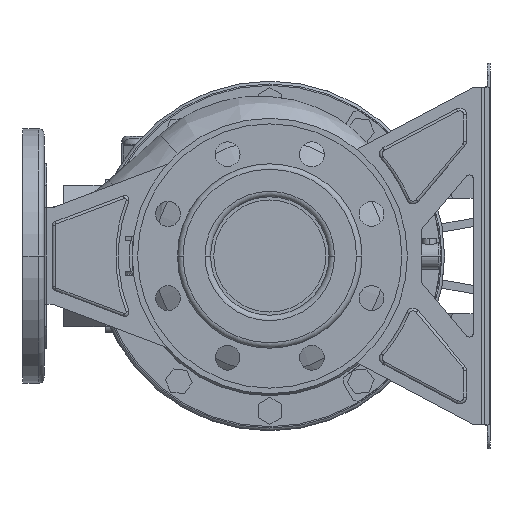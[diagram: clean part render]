
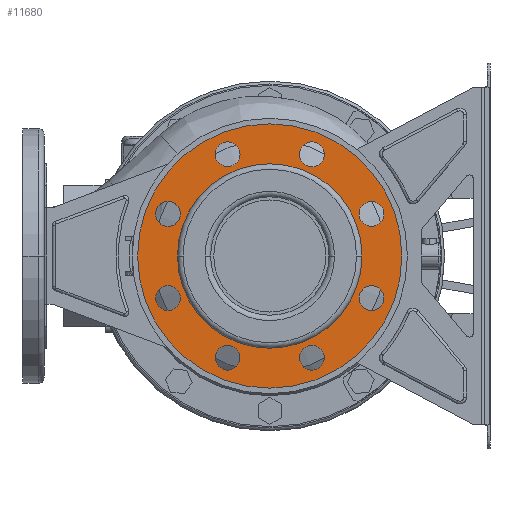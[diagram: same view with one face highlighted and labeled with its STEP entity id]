
A CAD part, left-side view. The second image highlights one B-rep face of the part: STEP entity #11680.
In plain terms, the highlighted planar face has unit normal (-1, 0, 0).
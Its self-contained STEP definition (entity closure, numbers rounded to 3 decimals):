
#10957=CARTESIAN_POINT('',(14.,0.,0.));
#10958=DIRECTION('',(-1.,0.,0.));
#10959=DIRECTION('',(0.,1.,0.));
#10960=AXIS2_PLACEMENT_3D('',#10957,#10958,#10959);
#10962=CARTESIAN_POINT('',(14.,0.,0.));
#10963=DIRECTION('',(1.,0.,0.));
#10964=DIRECTION('',(0.,1.,0.));
#10965=AXIS2_PLACEMENT_3D('',#10962,#10963,#10964);
#10967=CARTESIAN_POINT('',(14.,-73.91,30.615));
#10968=DIRECTION('',(1.,0.,0.));
#10969=DIRECTION('',(0.,1.,0.));
#10970=AXIS2_PLACEMENT_3D('',#10967,#10968,#10969);
#10972=CARTESIAN_POINT('',(14.,-73.91,30.615));
#10973=DIRECTION('',(1.,0.,0.));
#10974=DIRECTION('',(0.,-1.,0.));
#10975=AXIS2_PLACEMENT_3D('',#10972,#10973,#10974);
#10977=CARTESIAN_POINT('',(14.,-73.91,-30.615));
#10978=DIRECTION('',(1.,0.,0.));
#10979=DIRECTION('',(0.,0.707,0.707));
#10980=AXIS2_PLACEMENT_3D('',#10977,#10978,#10979);
#10982=CARTESIAN_POINT('',(14.,-73.91,-30.615));
#10983=DIRECTION('',(1.,0.,0.));
#10984=DIRECTION('',(0.,-0.707,-0.707));
#10985=AXIS2_PLACEMENT_3D('',#10982,#10983,#10984);
#10987=CARTESIAN_POINT('',(14.,-30.615,-73.91));
#10988=DIRECTION('',(1.,0.,0.));
#10989=DIRECTION('',(0.,0.,1.));
#10990=AXIS2_PLACEMENT_3D('',#10987,#10988,#10989);
#10992=CARTESIAN_POINT('',(14.,-30.615,-73.91));
#10993=DIRECTION('',(1.,0.,0.));
#10994=DIRECTION('',(0.,0.,-1.));
#10995=AXIS2_PLACEMENT_3D('',#10992,#10993,#10994);
#10997=CARTESIAN_POINT('',(14.,30.615,-73.91));
#10998=DIRECTION('',(1.,0.,0.));
#10999=DIRECTION('',(0.,-0.707,0.707));
#11000=AXIS2_PLACEMENT_3D('',#10997,#10998,#10999);
#11002=CARTESIAN_POINT('',(14.,30.615,-73.91));
#11003=DIRECTION('',(1.,0.,0.));
#11004=DIRECTION('',(0.,0.707,-0.707));
#11005=AXIS2_PLACEMENT_3D('',#11002,#11003,#11004);
#11007=CARTESIAN_POINT('',(14.,73.91,-30.615));
#11008=DIRECTION('',(1.,0.,0.));
#11009=DIRECTION('',(0.,-1.,0.));
#11010=AXIS2_PLACEMENT_3D('',#11007,#11008,#11009);
#11012=CARTESIAN_POINT('',(14.,73.91,-30.615));
#11013=DIRECTION('',(1.,0.,0.));
#11014=DIRECTION('',(0.,1.,0.));
#11015=AXIS2_PLACEMENT_3D('',#11012,#11013,#11014);
#11017=CARTESIAN_POINT('',(14.,73.91,30.615));
#11018=DIRECTION('',(1.,0.,0.));
#11019=DIRECTION('',(0.,-0.707,-0.707));
#11020=AXIS2_PLACEMENT_3D('',#11017,#11018,#11019);
#11022=CARTESIAN_POINT('',(14.,73.91,30.615));
#11023=DIRECTION('',(1.,0.,0.));
#11024=DIRECTION('',(0.,0.707,0.707));
#11025=AXIS2_PLACEMENT_3D('',#11022,#11023,#11024);
#11027=CARTESIAN_POINT('',(14.,30.615,73.91));
#11028=DIRECTION('',(1.,0.,0.));
#11029=DIRECTION('',(0.,0.,-1.));
#11030=AXIS2_PLACEMENT_3D('',#11027,#11028,#11029);
#11032=CARTESIAN_POINT('',(14.,30.615,73.91));
#11033=DIRECTION('',(1.,0.,0.));
#11034=DIRECTION('',(0.,0.,1.));
#11035=AXIS2_PLACEMENT_3D('',#11032,#11033,#11034);
#11037=CARTESIAN_POINT('',(14.,-30.615,73.91));
#11038=DIRECTION('',(1.,0.,0.));
#11039=DIRECTION('',(0.,0.707,-0.707));
#11040=AXIS2_PLACEMENT_3D('',#11037,#11038,#11039);
#11042=CARTESIAN_POINT('',(14.,-30.615,73.91));
#11043=DIRECTION('',(1.,0.,0.));
#11044=DIRECTION('',(0.,-0.707,0.707));
#11045=AXIS2_PLACEMENT_3D('',#11042,#11043,#11044);
#11047=CARTESIAN_POINT('',(14.,0.,0.));
#11048=DIRECTION('',(1.,0.,0.));
#11049=DIRECTION('',(0.,1.,0.));
#11050=AXIS2_PLACEMENT_3D('',#11047,#11048,#11049);
#11060=CARTESIAN_POINT('',(14.,0.,0.));
#11061=DIRECTION('',(-1.,0.,0.));
#11062=DIRECTION('',(0.,1.,0.));
#11063=AXIS2_PLACEMENT_3D('',#11060,#11061,#11062);
#11200=CARTESIAN_POINT('',(14.,96.,0.));
#11202=VERTEX_POINT('',#11200);
#11203=CARTESIAN_POINT('',(14.,67.,0.));
#11205=VERTEX_POINT('',#11203);
#11232=CARTESIAN_POINT('',(14.,-96.,0.));
#11234=VERTEX_POINT('',#11232);
#11235=CARTESIAN_POINT('',(14.,-67.,0.));
#11237=VERTEX_POINT('',#11235);
#11247=CARTESIAN_POINT('',(14.,-64.91,30.615));
#11248=CARTESIAN_POINT('',(14.,-82.91,30.615));
#11249=VERTEX_POINT('',#11247);
#11250=VERTEX_POINT('',#11248);
#11255=CARTESIAN_POINT('',(14.,-67.546,-24.251));
#11256=CARTESIAN_POINT('',(14.,-80.274,-36.979));
#11257=VERTEX_POINT('',#11255);
#11258=VERTEX_POINT('',#11256);
#11263=CARTESIAN_POINT('',(14.,-30.615,-64.91));
#11264=CARTESIAN_POINT('',(14.,-30.615,-82.91));
#11265=VERTEX_POINT('',#11263);
#11266=VERTEX_POINT('',#11264);
#11271=CARTESIAN_POINT('',(14.,24.251,-67.546));
#11272=CARTESIAN_POINT('',(14.,36.979,-80.274));
#11273=VERTEX_POINT('',#11271);
#11274=VERTEX_POINT('',#11272);
#11279=CARTESIAN_POINT('',(14.,64.91,-30.615));
#11280=CARTESIAN_POINT('',(14.,82.91,-30.615));
#11281=VERTEX_POINT('',#11279);
#11282=VERTEX_POINT('',#11280);
#11287=CARTESIAN_POINT('',(14.,67.546,24.251));
#11288=CARTESIAN_POINT('',(14.,80.274,36.979));
#11289=VERTEX_POINT('',#11287);
#11290=VERTEX_POINT('',#11288);
#11295=CARTESIAN_POINT('',(14.,30.615,64.91));
#11296=CARTESIAN_POINT('',(14.,30.615,82.91));
#11297=VERTEX_POINT('',#11295);
#11298=VERTEX_POINT('',#11296);
#11303=CARTESIAN_POINT('',(14.,-24.251,67.546));
#11304=CARTESIAN_POINT('',(14.,-36.979,80.274));
#11305=VERTEX_POINT('',#11303);
#11306=VERTEX_POINT('',#11304);
#11617=CARTESIAN_POINT('',(14.,0.,0.));
#11618=DIRECTION('',(1.,0.,0.));
#11619=DIRECTION('',(0.,-1.,0.));
#11620=AXIS2_PLACEMENT_3D('',#11617,#11618,#11619);
#11621=PLANE('',#11620);
#11622=ORIENTED_EDGE('',*,*,#11610,.F.);
#11623=ORIENTED_EDGE('',*,*,#11599,.T.);
#11624=EDGE_LOOP('',(#11622,#11623));
#11625=FACE_OUTER_BOUND('',#11624,.F.);
#11627=ORIENTED_EDGE('',*,*,#11626,.F.);
#11629=ORIENTED_EDGE('',*,*,#11628,.T.);
#11630=EDGE_LOOP('',(#11627,#11629));
#11631=FACE_BOUND('',#11630,.F.);
#11633=ORIENTED_EDGE('',*,*,#11632,.F.);
#11635=ORIENTED_EDGE('',*,*,#11634,.F.);
#11636=EDGE_LOOP('',(#11633,#11635));
#11637=FACE_BOUND('',#11636,.F.);
#11639=ORIENTED_EDGE('',*,*,#11638,.F.);
#11641=ORIENTED_EDGE('',*,*,#11640,.F.);
#11642=EDGE_LOOP('',(#11639,#11641));
#11643=FACE_BOUND('',#11642,.F.);
#11645=ORIENTED_EDGE('',*,*,#11644,.F.);
#11647=ORIENTED_EDGE('',*,*,#11646,.F.);
#11648=EDGE_LOOP('',(#11645,#11647));
#11649=FACE_BOUND('',#11648,.F.);
#11651=ORIENTED_EDGE('',*,*,#11650,.F.);
#11653=ORIENTED_EDGE('',*,*,#11652,.F.);
#11654=EDGE_LOOP('',(#11651,#11653));
#11655=FACE_BOUND('',#11654,.F.);
#11657=ORIENTED_EDGE('',*,*,#11656,.F.);
#11659=ORIENTED_EDGE('',*,*,#11658,.F.);
#11660=EDGE_LOOP('',(#11657,#11659));
#11661=FACE_BOUND('',#11660,.F.);
#11663=ORIENTED_EDGE('',*,*,#11662,.F.);
#11665=ORIENTED_EDGE('',*,*,#11664,.F.);
#11666=EDGE_LOOP('',(#11663,#11665));
#11667=FACE_BOUND('',#11666,.F.);
#11669=ORIENTED_EDGE('',*,*,#11668,.F.);
#11671=ORIENTED_EDGE('',*,*,#11670,.F.);
#11672=EDGE_LOOP('',(#11669,#11671));
#11673=FACE_BOUND('',#11672,.F.);
#11675=ORIENTED_EDGE('',*,*,#11674,.F.);
#11677=ORIENTED_EDGE('',*,*,#11676,.F.);
#11678=EDGE_LOOP('',(#11675,#11677));
#11679=FACE_BOUND('',#11678,.F.);
#10961=CIRCLE('',#10960,96.);
#10966=CIRCLE('',#10965,96.);
#10971=CIRCLE('',#10970,9.);
#10976=CIRCLE('',#10975,9.);
#10981=CIRCLE('',#10980,9.);
#10986=CIRCLE('',#10985,9.);
#10991=CIRCLE('',#10990,9.);
#10996=CIRCLE('',#10995,9.);
#11001=CIRCLE('',#11000,9.);
#11006=CIRCLE('',#11005,9.);
#11011=CIRCLE('',#11010,9.);
#11016=CIRCLE('',#11015,9.);
#11021=CIRCLE('',#11020,9.);
#11026=CIRCLE('',#11025,9.);
#11031=CIRCLE('',#11030,9.);
#11036=CIRCLE('',#11035,9.);
#11041=CIRCLE('',#11040,9.);
#11046=CIRCLE('',#11045,9.);
#11051=CIRCLE('',#11050,67.);
#11064=CIRCLE('',#11063,67.);
#11599=EDGE_CURVE('',#11202,#11234,#10966,.T.);
#11610=EDGE_CURVE('',#11202,#11234,#10961,.T.);
#11626=EDGE_CURVE('',#11205,#11237,#11051,.T.);
#11628=EDGE_CURVE('',#11205,#11237,#11064,.T.);
#11632=EDGE_CURVE('',#11249,#11250,#10971,.T.);
#11634=EDGE_CURVE('',#11250,#11249,#10976,.T.);
#11638=EDGE_CURVE('',#11257,#11258,#10981,.T.);
#11640=EDGE_CURVE('',#11258,#11257,#10986,.T.);
#11644=EDGE_CURVE('',#11265,#11266,#10991,.T.);
#11646=EDGE_CURVE('',#11266,#11265,#10996,.T.);
#11650=EDGE_CURVE('',#11273,#11274,#11001,.T.);
#11652=EDGE_CURVE('',#11274,#11273,#11006,.T.);
#11656=EDGE_CURVE('',#11281,#11282,#11011,.T.);
#11658=EDGE_CURVE('',#11282,#11281,#11016,.T.);
#11662=EDGE_CURVE('',#11289,#11290,#11021,.T.);
#11664=EDGE_CURVE('',#11290,#11289,#11026,.T.);
#11668=EDGE_CURVE('',#11297,#11298,#11031,.T.);
#11670=EDGE_CURVE('',#11298,#11297,#11036,.T.);
#11674=EDGE_CURVE('',#11305,#11306,#11041,.T.);
#11676=EDGE_CURVE('',#11306,#11305,#11046,.T.);
#11680=ADVANCED_FACE('',(#11625,#11631,#11637,#11643,#11649,#11655,#11661,
#11667,#11673,#11679),#11621,.F.);
